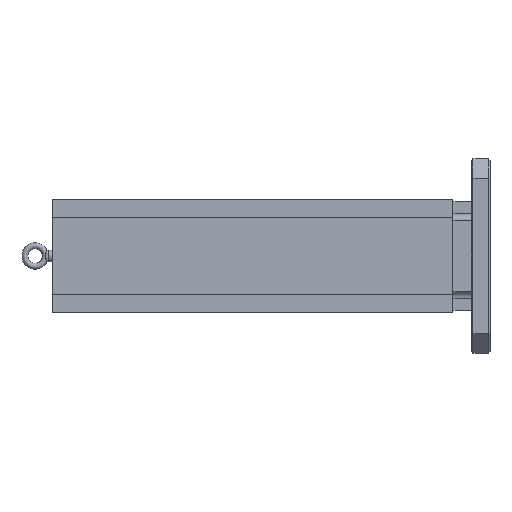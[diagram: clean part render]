
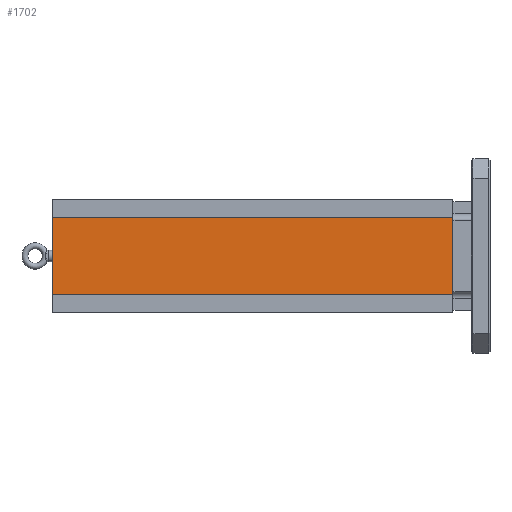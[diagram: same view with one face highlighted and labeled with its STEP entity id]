
A CAD part, left-side view. The second image highlights one B-rep face of the part: STEP entity #1702.
In plain terms, the highlighted planar face has unit normal (-1, 0, 0).
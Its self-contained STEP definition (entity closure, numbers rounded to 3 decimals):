
#204 = LINE ( 'NONE', #5777, #10168 ) ;
#470 = VERTEX_POINT ( 'NONE', #1366 ) ;
#805 = ORIENTED_EDGE ( 'NONE', *, *, #1131, .F. ) ;
#1118 = EDGE_CURVE ( 'NONE', #3145, #8224, #204, .T. ) ;
#1131 = EDGE_CURVE ( 'NONE', #470, #8397, #5717, .T. ) ;
#1366 = CARTESIAN_POINT ( 'NONE',  ( -116.992, 38.1, 79.273 ) ) ;
#1702 = ADVANCED_FACE ( 'NONE', ( #4807 ), #5527, .F. ) ;
#1947 = LINE ( 'NONE', #6396, #7150 ) ;
#2582 = EDGE_CURVE ( 'NONE', #3145, #8397, #1947, .T. ) ;
#2949 = CARTESIAN_POINT ( 'NONE',  ( -116.992, 862., -79.273 ) ) ;
#3145 = VERTEX_POINT ( 'NONE', #2949 ) ;
#3841 = DIRECTION ( 'NONE',  ( 0., 0., -1. ) ) ;
#3899 = EDGE_CURVE ( 'NONE', #8224, #470, #6093, .T. ) ;
#4252 = ORIENTED_EDGE ( 'NONE', *, *, #1118, .F. ) ;
#4552 = DIRECTION ( 'NONE',  ( 0., 0., 1. ) ) ;
#4807 = FACE_OUTER_BOUND ( 'NONE', #8054, .T. ) ;
#5032 = ORIENTED_EDGE ( 'NONE', *, *, #2582, .T. ) ;
#5527 = PLANE ( 'NONE',  #9697 ) ;
#5590 = DIRECTION ( 'NONE',  ( 0., 0., -1. ) ) ;
#5717 = LINE ( 'NONE', #6622, #9395 ) ;
#5777 = CARTESIAN_POINT ( 'NONE',  ( -116.992, 862., -79.273 ) ) ;
#6093 = LINE ( 'NONE', #8055, #10652 ) ;
#6365 = DIRECTION ( 'NONE',  ( 1., 0., 0. ) ) ;
#6396 = CARTESIAN_POINT ( 'NONE',  ( -116.992, 862., -79.273 ) ) ;
#6622 = CARTESIAN_POINT ( 'NONE',  ( -116.992, 38.1, -79.273 ) ) ;
#7150 = VECTOR ( 'NONE', #8369, 1000. ) ;
#8054 = EDGE_LOOP ( 'NONE', ( #805, #8443, #4252, #5032 ) ) ;
#8055 = CARTESIAN_POINT ( 'NONE',  ( -116.992, 862., 79.273 ) ) ;
#8224 = VERTEX_POINT ( 'NONE', #9484 ) ;
#8369 = DIRECTION ( 'NONE',  ( 0., -1., 0. ) ) ;
#8397 = VERTEX_POINT ( 'NONE', #10685 ) ;
#8443 = ORIENTED_EDGE ( 'NONE', *, *, #3899, .F. ) ;
#9395 = VECTOR ( 'NONE', #3841, 1000. ) ;
#9484 = CARTESIAN_POINT ( 'NONE',  ( -116.992, 862., 79.273 ) ) ;
#9697 = AXIS2_PLACEMENT_3D ( 'NONE', #10916, #6365, #5590 ) ;
#10168 = VECTOR ( 'NONE', #4552, 1000. ) ;
#10652 = VECTOR ( 'NONE', #11718, 1000. ) ;
#10685 = CARTESIAN_POINT ( 'NONE',  ( -116.992, 38.1, -79.273 ) ) ;
#10916 = CARTESIAN_POINT ( 'NONE',  ( -116.992, 862., -79.273 ) ) ;
#11718 = DIRECTION ( 'NONE',  ( 0., -1., 0. ) ) ;
